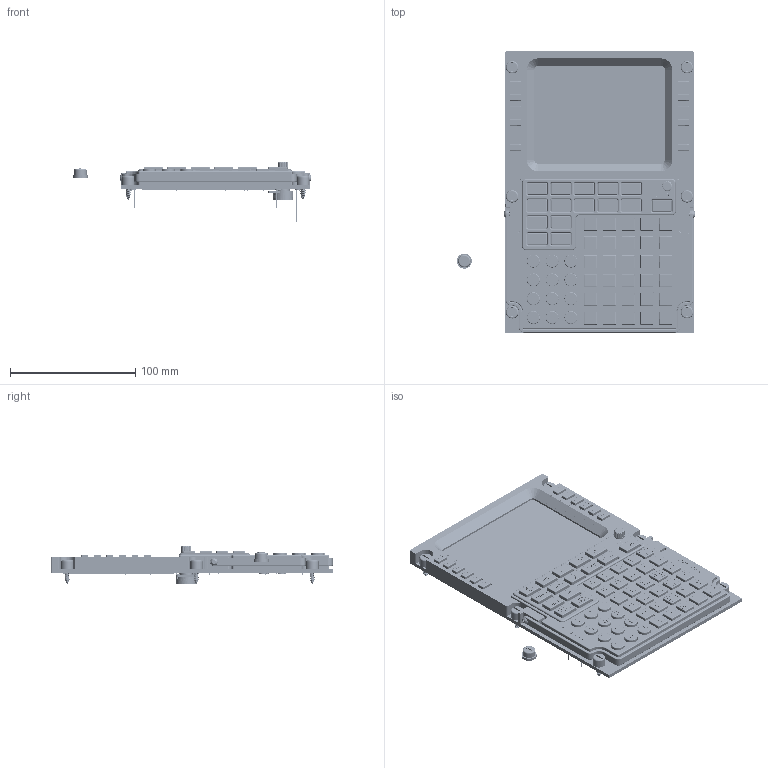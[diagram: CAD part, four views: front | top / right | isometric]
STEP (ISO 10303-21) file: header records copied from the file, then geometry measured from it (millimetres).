
FILE_DESCRIPTION(/* description */ (''),/* implementation_level */ '2;1');
FILE_NAME(/* name */ 'FMC v1 -Handwiring.step',/* time_stamp */ '2026-09-18T16:33:02+01:00',/* author */ (''),/* organization */ (''),/* preprocessor_version */ 'ST-DEVELOPER v20.2',/* originating_system */ 'Autodesk Translation Framework v15.15.0.0',/* authorisation */ '');
FILE_SCHEMA (('AUTOMOTIVE_DESIGN { 1 0 10303 214 3 1 1 }'));
Products named in the file (72): FMC; FMC Base; FacePlate; Component3; Component8; Component10; fmc upper button; fmc upper button_1; fmc upper button_2; fmc upper button_3; fmc upper button_4; fmc upper button_5; fmc upper button_6; fmc upper button_7; fmc upper button_8; fmc upper button_9; fmc upper button_10; fmc upper button_11; 6x6 tactile led white v1; Component2; Component3_1; Component9; Component11; Component12; Component13; Component14; Component15; Component16; Component17; Component18; Component19; Component20; Component21; Component22; Component23; Component24; Component25; Component26; 6x6 tactile led white; Component1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
Assembly tree (185 placements, depth 4):
  FMC
    FMC Base
    FacePlate
      Component3
    Component8
    Component9  x14
    Component10
    fmc upper button
      6x6 tactile led white v1
      Component2
      Component3_1
    fmc upper button_1
      6x6 tactile led white v1
      Component2
      Component3_1
    fmc upper button_2
      6x6 tactile led white v1
      Component2
      Component3_1
    fmc upper button_3
      6x6 tactile led white v1
      Component2
      Component3_1
    fmc upper button_4
      6x6 tactile led white v1
      Component2
      Component3_1
    fmc upper button_5
      6x6 tactile led white v1
      Component2
      Component3_1
    fmc upper button_6
      6x6 tactile led white v1
      Component2
      Component3_1
    fmc upper button_7
      6x6 tactile led white v1
      Component2
      Component3_1
    fmc upper button_8
      6x6 tactile led white v1
      Component2
      Component3_1
    fmc upper button_9
      6x6 tactile led white v1
      Component2
      Component3_1
    fmc upper button_10
      6x6 tactile led white v1
      Component2
      Component3_1
    fmc upper button_11
      6x6 tactile led white v1
      Component2
      Component3_1
    6x6 tactile led white  x57
      Component1
    Component11
    Component12
    Component13
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Bounding box: 190.05 x 225 x 48 mm (x, y, z)
Volume: 332090.1 mm3; surface area: 277245.6 mm2
Topology: 712 solids, 712 shells, 28398 faces, 73763 edges, 46527 vertices
Faces by surface type: plane 17383, cylinder 7352, bspline 2005, sphere 1166, torus 391, cone 101
Full cylindrical faces by diameter (mm): 1 x138, 1.2 x276, 1.6 x3, 2.25 x57, 2.35 x32, 2.812 x30, 3 x33, 3.417 x6, 4 x7, 4.166 x48, 4.7 x5, 5 x1, 5.7 x2, 5.77 x2, 5.86 x1, 6.884 x3, 8 x6, 8.196 x1, 10 x7, 10.4 x12, 10.73 x1, 11 x12, 12 x1, 12.4 x12, 13 x12, 16.11 x1
Entity records: 236583 total; most frequent: CARTESIAN_POINT 66902, ORIENTED_EDGE 36194, DIRECTION 31118, EDGE_CURVE 18097, VERTEX_POINT 11732, LINE 11352, VECTOR 11352, AXIS2_PLACEMENT_3D 9883
